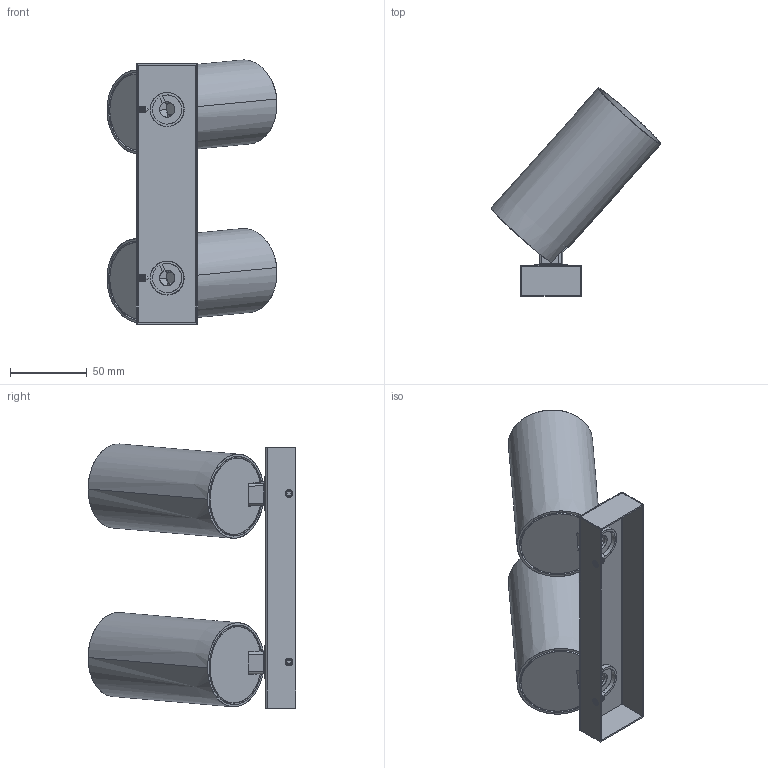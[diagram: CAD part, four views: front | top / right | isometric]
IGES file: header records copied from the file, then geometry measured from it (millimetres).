
Start section: SolidWorks IGES file using analytic representation for surfaces
Global section: file name: Z:\Modele 3D_WWW\_KOLEKCJE_WWW\MONO\MONO-BELKA\MONO-II-7810-7841\MONO-II-7810-7841.IGS; native system: SolidWorks 2021; preprocessor: SolidWorks 2021; author: gabriela.tworek; date: 210722.105228; units: millimetre
Bounding box: 110.94 x 135.64 x 172.33 mm (x, y, z)
Surface area: 129008.2 mm2 (no closed solid volume)
Topology: 0 solids, 0 shells, 458 faces, 6296 edges, 6292 vertices
Faces by surface type: revolution 298, bspline 160
